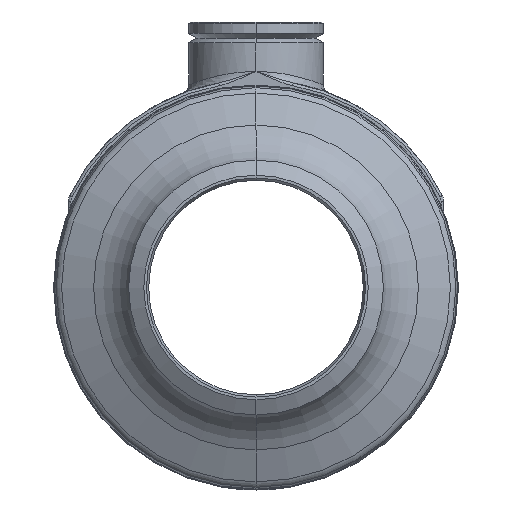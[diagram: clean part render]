
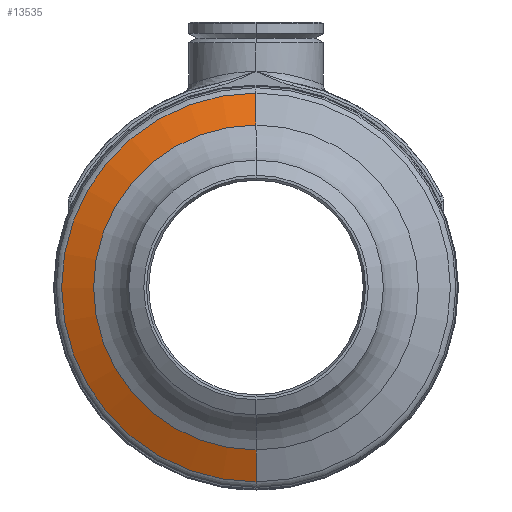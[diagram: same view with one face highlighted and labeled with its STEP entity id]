
A CAD part, left-side view. The second image highlights one B-rep face of the part: STEP entity #13535.
In plain terms, the highlighted conical face has half-angle 66.571 degrees and reference radius 66.524 mm.
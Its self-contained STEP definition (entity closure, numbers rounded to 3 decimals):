
#3579=CARTESIAN_POINT('',(-57.305,0.,0.));
#3580=DIRECTION('',(1.,0.,0.));
#3581=DIRECTION('',(0.,0.,-1.));
#3582=AXIS2_PLACEMENT_3D('',#3579,#3580,#3581);
#3584=CARTESIAN_POINT('',(-62.474,0.,0.));
#3585=DIRECTION('',(1.,0.,0.));
#3586=DIRECTION('',(0.,0.,-1.));
#3587=AXIS2_PLACEMENT_3D('',#3584,#3585,#3586);
#3660=DIRECTION('',(-0.398,0.,0.918));
#3661=VECTOR('',#3660,13.);
#3662=CARTESIAN_POINT('',(-57.305,0.,
-72.488));
#3663=LINE('',#3662,#3661);
#3669=DIRECTION('',(-0.398,0.,-0.918));
#3670=VECTOR('',#3669,13.);
#3671=CARTESIAN_POINT('',(-57.305,0.,
72.488));
#3672=LINE('',#3671,#3670);
#6606=CARTESIAN_POINT('',(-57.305,0.,-72.488));
#6607=CARTESIAN_POINT('',(-57.305,0.,
72.488));
#6608=VERTEX_POINT('',#6606);
#6609=VERTEX_POINT('',#6607);
#6614=CARTESIAN_POINT('',(-62.474,0.,
60.56));
#6615=VERTEX_POINT('',#6614);
#6616=CARTESIAN_POINT('',(-62.474,0.,-60.56));
#6617=VERTEX_POINT('',#6616);
#13521=CARTESIAN_POINT('',(-59.89,0.,0.));
#13522=DIRECTION('',(1.,0.,0.));
#13523=DIRECTION('',(0.,0.,1.));
#13524=AXIS2_PLACEMENT_3D('',#13521,#13522,#13523);
#13525=CONICAL_SURFACE('',#13524,66.524,66.571);
#13527=ORIENTED_EDGE('',*,*,#13526,.T.);
#13529=ORIENTED_EDGE('',*,*,#13528,.T.);
#13530=ORIENTED_EDGE('',*,*,#13515,.F.);
#13532=ORIENTED_EDGE('',*,*,#13531,.F.);
#13533=EDGE_LOOP('',(#13527,#13529,#13530,#13532));
#13534=FACE_OUTER_BOUND('',#13533,.F.);
#13535=ADVANCED_FACE('',(#13534),#13525,.T.);
#3583=CIRCLE('',#3582,72.488);
#3588=CIRCLE('',#3587,60.56);
#13515=EDGE_CURVE('',#6617,#6615,#3588,.T.);
#13526=EDGE_CURVE('',#6608,#6609,#3583,.T.);
#13528=EDGE_CURVE('',#6609,#6615,#3672,.T.);
#13531=EDGE_CURVE('',#6608,#6617,#3663,.T.);
